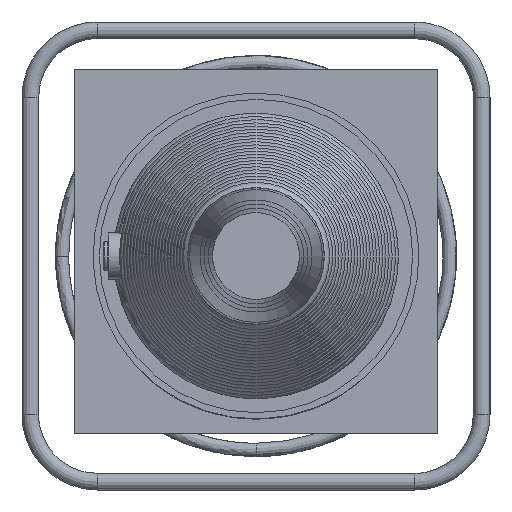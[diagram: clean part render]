
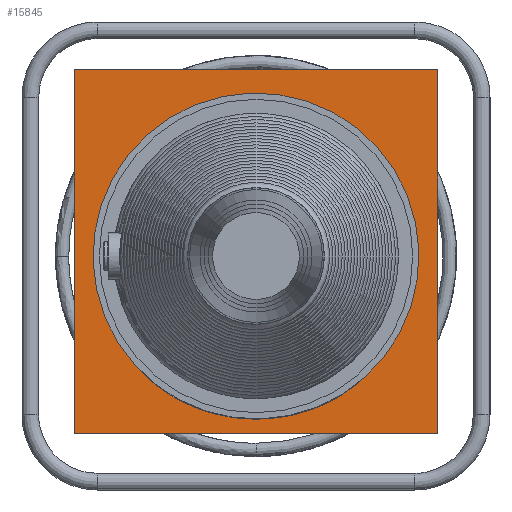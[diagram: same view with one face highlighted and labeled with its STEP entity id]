
A CAD part, left-side view. The second image highlights one B-rep face of the part: STEP entity #15845.
In plain terms, the highlighted planar face has unit normal (-1, 0, 0).
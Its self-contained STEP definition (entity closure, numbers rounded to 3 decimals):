
#1534=PLANE('',#16865);
#2414=LINE('',#41805,#3304);
#2418=LINE('',#41812,#3308);
#2421=LINE('',#41817,#3311);
#2424=LINE('',#41821,#3314);
#3304=VECTOR('',#19753,435.);
#3308=VECTOR('',#19759,435.);
#3311=VECTOR('',#19764,435.);
#3314=VECTOR('',#19769,435.);
#3679=FACE_BOUND('',#5805,.T.);
#4621=FACE_OUTER_BOUND('',#5804,.T.);
#5804=EDGE_LOOP('',(#14434,#14435,#14436,#14437));
#5805=EDGE_LOOP('',(#14438));
#6172=CIRCLE('',#16543,195.);
#7695=VERTEX_POINT('',#36578);
#7851=VERTEX_POINT('',#41803);
#7852=VERTEX_POINT('',#41804);
#7854=VERTEX_POINT('',#41811);
#7855=VERTEX_POINT('',#41816);
#9865=EDGE_CURVE('',#7695,#7695,#6172,.T.);
#10047=EDGE_CURVE('',#7851,#7852,#2414,.T.);
#10051=EDGE_CURVE('',#7852,#7854,#2418,.T.);
#10054=EDGE_CURVE('',#7854,#7855,#2421,.T.);
#10057=EDGE_CURVE('',#7855,#7851,#2424,.T.);
#14434=ORIENTED_EDGE('',*,*,#10057,.T.);
#14435=ORIENTED_EDGE('',*,*,#10047,.T.);
#14436=ORIENTED_EDGE('',*,*,#10051,.T.);
#14437=ORIENTED_EDGE('',*,*,#10054,.T.);
#14438=ORIENTED_EDGE('',*,*,#9865,.T.);
#15845=ADVANCED_FACE('',(#4621,#3679),#1534,.T.);
#16543=AXIS2_PLACEMENT_3D('',#36579,#19109,#19110);
#16865=AXIS2_PLACEMENT_3D('',#41823,#19771,#19772);
#19109=DIRECTION('center_axis',(1.,0.,0.));
#19110=DIRECTION('ref_axis',(0.,0.471,-0.882));
#19753=DIRECTION('',(0.,0.,-1.));
#19759=DIRECTION('',(0.,-1.,0.));
#19764=DIRECTION('',(0.,0.,1.));
#19769=DIRECTION('',(0.,1.,0.));
#19771=DIRECTION('center_axis',(-1.,0.,0.));
#19772=DIRECTION('ref_axis',(0.,0.,-1.));
#36578=CARTESIAN_POINT('',(-112.151,91.773,-172.054));
#36579=CARTESIAN_POINT('Origin',(-112.151,0.,
0.));
#41803=CARTESIAN_POINT('',(-112.151,217.5,222.753));
#41804=CARTESIAN_POINT('',(-112.151,217.5,-212.247));
#41805=CARTESIAN_POINT('',(-112.151,217.5,222.753));
#41811=CARTESIAN_POINT('',(-112.151,-217.5,-212.247));
#41812=CARTESIAN_POINT('',(-112.151,217.5,-212.247));
#41816=CARTESIAN_POINT('',(-112.151,-217.5,222.753));
#41817=CARTESIAN_POINT('',(-112.151,-217.5,-212.247));
#41821=CARTESIAN_POINT('',(-112.151,-217.5,222.753));
#41823=CARTESIAN_POINT('Origin',(-112.151,0.,5.253));
